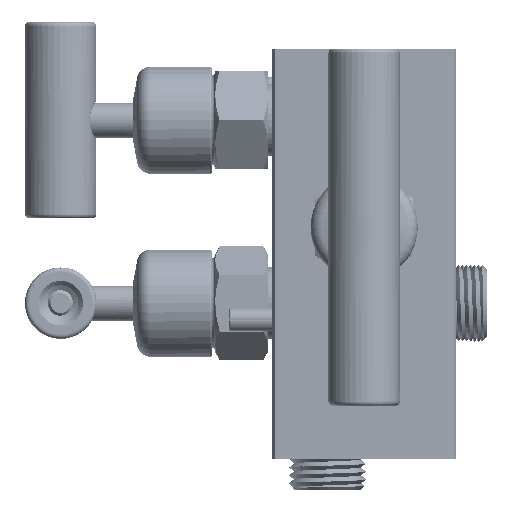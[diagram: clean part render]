
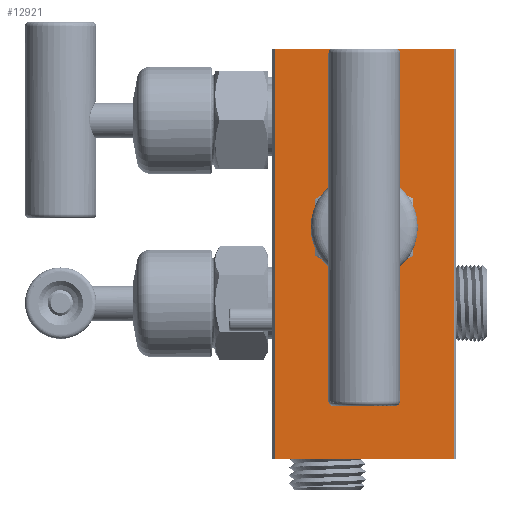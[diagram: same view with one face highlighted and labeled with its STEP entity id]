
A CAD part, left-side view. The second image highlights one B-rep face of the part: STEP entity #12921.
In plain terms, the highlighted planar face has unit normal (-1, 0, 0).
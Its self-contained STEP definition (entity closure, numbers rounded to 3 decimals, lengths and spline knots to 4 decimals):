
#523=FACE_BOUND('',#1821,.T.);
#524=FACE_BOUND('',#1822,.T.);
#525=FACE_BOUND('',#1823,.T.);
#578=PLANE('',#14059);
#1052=FACE_OUTER_BOUND('',#1820,.T.);
#1820=EDGE_LOOP('',(#9075,#9076,#9077,#9078));
#1821=EDGE_LOOP('',(#9079,#9080,#9081,#9082));
#1822=EDGE_LOOP('',(#9083));
#1823=EDGE_LOOP('',(#9084));
#2589=CIRCLE('',#14060,0.3125);
#2590=CIRCLE('',#14061,0.0895);
#2591=CIRCLE('',#14062,0.0895);
#3253=B_SPLINE_CURVE_WITH_KNOTS('',3,(#28501,#28502,#28503,#28504,#28505,
#28506),.UNSPECIFIED.,.F.,.F.,(4,2,4),(-0.4859,-0.2433,
-0.0001),.UNSPECIFIED.);
#3254=B_SPLINE_CURVE_WITH_KNOTS('',3,(#28510,#28511,#28512,#28513,#28514,
#28515),.UNSPECIFIED.,.F.,.F.,(4,2,4),(-0.5499,-0.2458,
-0.0013),.UNSPECIFIED.);
#3255=B_SPLINE_CURVE_WITH_KNOTS('',3,(#28516,#28517,#28518,#28519),
 .UNSPECIFIED.,.F.,.F.,(4,4),(-0.0002,0.),.UNSPECIFIED.);
#4086=LINE('',#28483,#4645);
#4087=LINE('',#28495,#4646);
#4088=LINE('',#28497,#4647);
#4089=LINE('',#28498,#4648);
#4645=VECTOR('',#15396,1.2561);
#4646=VECTOR('',#15411,2.875);
#4647=VECTOR('',#15412,1.2561);
#4648=VECTOR('',#15413,2.875);
#5466=VERTEX_POINT('',#28481);
#5467=VERTEX_POINT('',#28482);
#5471=VERTEX_POINT('',#28494);
#5472=VERTEX_POINT('',#28496);
#5473=VERTEX_POINT('',#28499);
#5474=VERTEX_POINT('',#28500);
#5475=VERTEX_POINT('',#28507);
#5476=VERTEX_POINT('',#28509);
#5477=VERTEX_POINT('',#28520);
#5478=VERTEX_POINT('',#28522);
#6919=EDGE_CURVE('',#5466,#5467,#4086,.T.);
#6926=EDGE_CURVE('',#5467,#5471,#4087,.T.);
#6927=EDGE_CURVE('',#5472,#5471,#4088,.T.);
#6928=EDGE_CURVE('',#5472,#5466,#4089,.T.);
#6929=EDGE_CURVE('',#5473,#5474,#3253,.T.);
#6930=EDGE_CURVE('',#5474,#5475,#2589,.T.);
#6931=EDGE_CURVE('',#5475,#5476,#3254,.T.);
#6932=EDGE_CURVE('',#5473,#5476,#3255,.T.);
#6933=EDGE_CURVE('',#5477,#5477,#2590,.T.);
#6934=EDGE_CURVE('',#5478,#5478,#2591,.T.);
#9075=ORIENTED_EDGE('',*,*,#6926,.T.);
#9076=ORIENTED_EDGE('',*,*,#6927,.F.);
#9077=ORIENTED_EDGE('',*,*,#6928,.T.);
#9078=ORIENTED_EDGE('',*,*,#6919,.T.);
#9079=ORIENTED_EDGE('',*,*,#6929,.T.);
#9080=ORIENTED_EDGE('',*,*,#6930,.T.);
#9081=ORIENTED_EDGE('',*,*,#6931,.T.);
#9082=ORIENTED_EDGE('',*,*,#6932,.F.);
#9083=ORIENTED_EDGE('',*,*,#6933,.F.);
#9084=ORIENTED_EDGE('',*,*,#6934,.F.);
#12921=ADVANCED_FACE('',(#1052,#523,#524,#525),#578,.T.);
#14059=AXIS2_PLACEMENT_3D('',#28493,#15409,#15410);
#14060=AXIS2_PLACEMENT_3D('',#28508,#15414,#15415);
#14061=AXIS2_PLACEMENT_3D('',#28521,#15416,#15417);
#14062=AXIS2_PLACEMENT_3D('',#28523,#15418,#15419);
#15396=DIRECTION('',(0.,-1.,0.));
#15409=DIRECTION('center_axis',(-1.,0.,0.));
#15410=DIRECTION('ref_axis',(0.,0.,1.));
#15411=DIRECTION('',(0.,0.,1.));
#15412=DIRECTION('',(0.,-1.,0.));
#15413=DIRECTION('',(0.,0.,-1.));
#15414=DIRECTION('center_axis',(1.,0.,0.));
#15415=DIRECTION('ref_axis',(0.,-0.786,-0.619));
#15416=DIRECTION('center_axis',(-1.,0.,0.));
#15417=DIRECTION('ref_axis',(0.,0.,1.));
#15418=DIRECTION('center_axis',(-1.,0.,0.));
#15419=DIRECTION('ref_axis',(0.,0.,1.));
#28481=CARTESIAN_POINT('',(-1.687,0.6276,-1.4375));
#28482=CARTESIAN_POINT('',(-1.687,-0.6286,-1.4375));
#28483=CARTESIAN_POINT('',(-1.687,0.6276,-1.4375));
#28493=CARTESIAN_POINT('Origin',(-1.687,-0.646,-1.4375));
#28494=CARTESIAN_POINT('',(-1.687,-0.6286,1.4375));
#28495=CARTESIAN_POINT('',(-1.687,-0.6286,-1.4375));
#28496=CARTESIAN_POINT('',(-1.687,0.6276,1.4375));
#28497=CARTESIAN_POINT('',(-1.687,0.6276,1.4375));
#28498=CARTESIAN_POINT('',(-1.687,0.6276,1.4375));
#28499=CARTESIAN_POINT('',(-1.687,-0.3185,0.1693));
#28500=CARTESIAN_POINT('',(-1.6871,-0.2455,-0.0058));
#28501=CARTESIAN_POINT('Ctrl Pts',(-1.687,-0.3185,0.1693));
#28502=CARTESIAN_POINT('Ctrl Pts',(-1.687,-0.3155,0.1361));
#28503=CARTESIAN_POINT('Ctrl Pts',(-1.687,-0.3076,
0.105));
#28504=CARTESIAN_POINT('Ctrl Pts',(-1.687,-0.2829,
0.0462));
#28505=CARTESIAN_POINT('Ctrl Pts',(-1.687,-0.2661,0.0187));
#28506=CARTESIAN_POINT('Ctrl Pts',(-1.687,-0.2455,-0.0058));
#28507=CARTESIAN_POINT('',(-1.687,-0.2659,0.3515));
#28508=CARTESIAN_POINT('Origin',(-1.687,0.,0.1875));
#28509=CARTESIAN_POINT('',(-1.687,-0.3185,0.1697));
#28510=CARTESIAN_POINT('Ctrl Pts',(-1.687,-0.2659,0.3515));
#28511=CARTESIAN_POINT('Ctrl Pts',(-1.687,-0.2789,0.332));
#28512=CARTESIAN_POINT('Ctrl Pts',(-1.687,-0.2951,
0.3032));
#28513=CARTESIAN_POINT('Ctrl Pts',(-1.687,-0.3151,
0.234));
#28514=CARTESIAN_POINT('Ctrl Pts',(-1.687,-0.3192,0.2018));
#28515=CARTESIAN_POINT('Ctrl Pts',(-1.687,-0.3185,0.1697));
#28516=CARTESIAN_POINT('Ctrl Pts',(-1.687,-0.3185,
0.1693));
#28517=CARTESIAN_POINT('Ctrl Pts',(-1.687,-0.3185,
0.1694));
#28518=CARTESIAN_POINT('Ctrl Pts',(-1.687,-0.3185,
0.1696));
#28519=CARTESIAN_POINT('Ctrl Pts',(-1.687,-0.3185,
0.1697));
#28520=CARTESIAN_POINT('',(-1.687,0.1149,0.5269));
#28521=CARTESIAN_POINT('Origin',(-1.687,0.1149,0.6164));
#28522=CARTESIAN_POINT('',(-1.687,-0.1149,0.5269));
#28523=CARTESIAN_POINT('Origin',(-1.687,-0.1149,0.6164));
